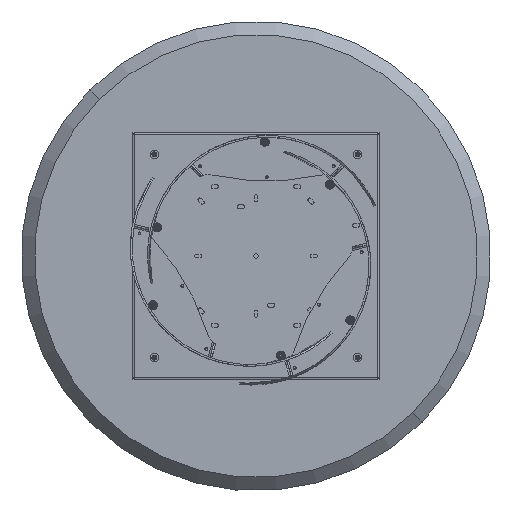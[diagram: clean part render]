
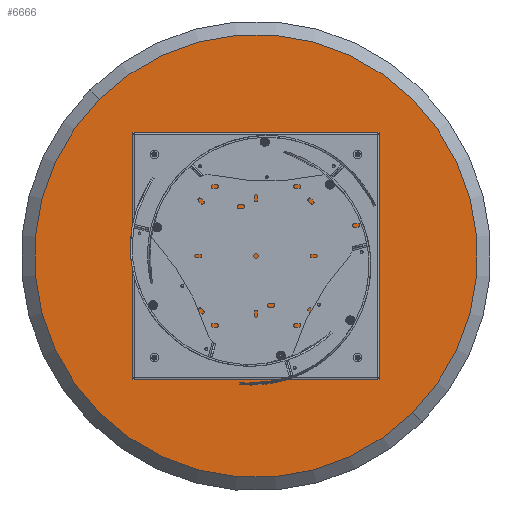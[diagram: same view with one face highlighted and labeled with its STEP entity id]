
A CAD part, front view. The second image highlights one B-rep face of the part: STEP entity #6666.
In plain terms, the highlighted planar face has unit normal (0, -1, 0).
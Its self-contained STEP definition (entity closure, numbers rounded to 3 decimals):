
#389 = AXIS2_PLACEMENT_3D ( 'NONE', #4727, #17463, #1574 ) ;
#555 = EDGE_LOOP ( 'NONE', ( #2842, #19616 ) ) ;
#726 = DIRECTION ( 'NONE',  ( 0., 0., -1. ) ) ;
#732 = DIRECTION ( 'NONE',  ( 0., 0., -1. ) ) ;
#737 = DIRECTION ( 'NONE',  ( 0., 0., -1. ) ) ;
#762 = CARTESIAN_POINT ( 'NONE',  ( 0., 0., -397.5 ) ) ;
#769 = EDGE_CURVE ( 'NONE', #1436, #10448, #15311, .T. ) ;
#771 = EDGE_CURVE ( 'NONE', #4511, #2243, #17977, .T. ) ;
#1298 = VERTEX_POINT ( 'NONE', #19451 ) ;
#1417 = CARTESIAN_POINT ( 'NONE',  ( 397.5, 0., -3.4 ) ) ;
#1436 = VERTEX_POINT ( 'NONE', #15176 ) ;
#1457 = EDGE_CURVE ( 'NONE', #10448, #1436, #2097, .T. ) ;
#1555 = VERTEX_POINT ( 'NONE', #8151 ) ;
#1574 = DIRECTION ( 'NONE',  ( 0., 0., -1. ) ) ;
#2053 = CIRCLE ( 'NONE', #389, 3.4 ) ;
#2097 = CIRCLE ( 'NONE', #8439, 613. ) ;
#2243 = VERTEX_POINT ( 'NONE', #19600 ) ;
#2321 = ORIENTED_EDGE ( 'NONE', *, *, #19620, .F. ) ;
#2424 = DIRECTION ( 'NONE',  ( 0., -1., 0. ) ) ;
#2650 = CARTESIAN_POINT ( 'NONE',  ( -397.5, 0., 0. ) ) ;
#2842 = ORIENTED_EDGE ( 'NONE', *, *, #10387, .F. ) ;
#3183 = EDGE_CURVE ( 'NONE', #8908, #1555, #2053, .T. ) ;
#3203 = EDGE_CURVE ( 'NONE', #12857, #1298, #7078, .T. ) ;
#3333 = CIRCLE ( 'NONE', #15024, 3.4 ) ;
#3779 = DIRECTION ( 'NONE',  ( 0., -1., 0. ) ) ;
#3812 = FACE_OUTER_BOUND ( 'NONE', #19307, .T. ) ;
#4284 = CARTESIAN_POINT ( 'NONE',  ( 0., 0., 613. ) ) ;
#4421 = CARTESIAN_POINT ( 'NONE',  ( 0., 0., 0. ) ) ;
#4511 = VERTEX_POINT ( 'NONE', #9405 ) ;
#4727 = CARTESIAN_POINT ( 'NONE',  ( 397.5, 0., 0. ) ) ;
#5226 = CARTESIAN_POINT ( 'NONE',  ( 0., 0., 397.5 ) ) ;
#5733 = EDGE_LOOP ( 'NONE', ( #15927, #14129 ) ) ;
#5980 = DIRECTION ( 'NONE',  ( 0., -1., 0. ) ) ;
#6311 = AXIS2_PLACEMENT_3D ( 'NONE', #10406, #19786, #16554 ) ;
#6658 = DIRECTION ( 'NONE',  ( 0., 0., -1. ) ) ;
#6666 = ADVANCED_FACE ( 'NONE', ( #3812, #19880, #13622, #10592, #10193 ), #18429, .T. ) ;
#6778 = ORIENTED_EDGE ( 'NONE', *, *, #13885, .F. ) ;
#7078 = CIRCLE ( 'NONE', #17409, 3.4 ) ;
#7103 = ORIENTED_EDGE ( 'NONE', *, *, #1457, .T. ) ;
#7137 = CARTESIAN_POINT ( 'NONE',  ( 0., 0., -400.9 ) ) ;
#7207 = DIRECTION ( 'NONE',  ( 0., -1., 0. ) ) ;
#7585 = CIRCLE ( 'NONE', #17263, 3.4 ) ;
#7639 = AXIS2_PLACEMENT_3D ( 'NONE', #19986, #16767, #11533 ) ;
#8151 = CARTESIAN_POINT ( 'NONE',  ( 397.5, 0., 3.4 ) ) ;
#8218 = DIRECTION ( 'NONE',  ( 0., -1., 0. ) ) ;
#8439 = AXIS2_PLACEMENT_3D ( 'NONE', #4421, #5980, #10476 ) ;
#8908 = VERTEX_POINT ( 'NONE', #1417 ) ;
#9046 = DIRECTION ( 'NONE',  ( 0., -1., 0. ) ) ;
#9191 = CARTESIAN_POINT ( 'NONE',  ( 0., 0., 400.9 ) ) ;
#9405 = CARTESIAN_POINT ( 'NONE',  ( -397.5, 0., -3.4 ) ) ;
#9849 = EDGE_LOOP ( 'NONE', ( #16640, #6778 ) ) ;
#10193 = FACE_BOUND ( 'NONE', #555, .T. ) ;
#10387 = EDGE_CURVE ( 'NONE', #1298, #12857, #7585, .T. ) ;
#10396 = CARTESIAN_POINT ( 'NONE',  ( 0., 0., 0. ) ) ;
#10406 = CARTESIAN_POINT ( 'NONE',  ( 0., 0., 0. ) ) ;
#10448 = VERTEX_POINT ( 'NONE', #4284 ) ;
#10476 = DIRECTION ( 'NONE',  ( 0., 0., -1. ) ) ;
#10592 = FACE_BOUND ( 'NONE', #5733, .T. ) ;
#10794 = ORIENTED_EDGE ( 'NONE', *, *, #769, .T. ) ;
#10977 = VERTEX_POINT ( 'NONE', #7137 ) ;
#11337 = AXIS2_PLACEMENT_3D ( 'NONE', #19189, #8218, #6658 ) ;
#11533 = DIRECTION ( 'NONE',  ( 0., 0., -1. ) ) ;
#11667 = CIRCLE ( 'NONE', #11337, 3.4 ) ;
#11945 = DIRECTION ( 'NONE',  ( 0., 0., -1. ) ) ;
#12078 = CIRCLE ( 'NONE', #15734, 3.4 ) ;
#12779 = CARTESIAN_POINT ( 'NONE',  ( 0., 0., -394.1 ) ) ;
#12857 = VERTEX_POINT ( 'NONE', #9191 ) ;
#13095 = EDGE_LOOP ( 'NONE', ( #19802, #2321 ) ) ;
#13426 = CIRCLE ( 'NONE', #14411, 3.4 ) ;
#13578 = CARTESIAN_POINT ( 'NONE',  ( 0., 0., 397.5 ) ) ;
#13622 = FACE_BOUND ( 'NONE', #9849, .T. ) ;
#13885 = EDGE_CURVE ( 'NONE', #2243, #4511, #3333, .T. ) ;
#14123 = DIRECTION ( 'NONE',  ( 0., 0., -1. ) ) ;
#14129 = ORIENTED_EDGE ( 'NONE', *, *, #19205, .F. ) ;
#14411 = AXIS2_PLACEMENT_3D ( 'NONE', #15038, #7207, #726 ) ;
#14758 = VERTEX_POINT ( 'NONE', #12779 ) ;
#14985 = DIRECTION ( 'NONE',  ( 0., 0., -1. ) ) ;
#15024 = AXIS2_PLACEMENT_3D ( 'NONE', #2650, #9046, #14985 ) ;
#15038 = CARTESIAN_POINT ( 'NONE',  ( 397.5, 0., 0. ) ) ;
#15044 = DIRECTION ( 'NONE',  ( 0., -1., 0. ) ) ;
#15140 = EDGE_CURVE ( 'NONE', #10977, #14758, #12078, .T. ) ;
#15176 = CARTESIAN_POINT ( 'NONE',  ( 0., 0., -613. ) ) ;
#15311 = CIRCLE ( 'NONE', #6311, 613. ) ;
#15734 = AXIS2_PLACEMENT_3D ( 'NONE', #762, #2424, #14123 ) ;
#15927 = ORIENTED_EDGE ( 'NONE', *, *, #3183, .F. ) ;
#16554 = DIRECTION ( 'NONE',  ( 0., 0., -1. ) ) ;
#16640 = ORIENTED_EDGE ( 'NONE', *, *, #771, .F. ) ;
#16767 = DIRECTION ( 'NONE',  ( 0., -1., 0. ) ) ;
#17263 = AXIS2_PLACEMENT_3D ( 'NONE', #13578, #15044, #732 ) ;
#17409 = AXIS2_PLACEMENT_3D ( 'NONE', #5226, #3779, #737 ) ;
#17463 = DIRECTION ( 'NONE',  ( 0., -1., 0. ) ) ;
#17977 = CIRCLE ( 'NONE', #7639, 3.4 ) ;
#17983 = AXIS2_PLACEMENT_3D ( 'NONE', #10396, #19976, #11945 ) ;
#18429 = PLANE ( 'NONE',  #17983 ) ;
#19189 = CARTESIAN_POINT ( 'NONE',  ( 0., 0., -397.5 ) ) ;
#19205 = EDGE_CURVE ( 'NONE', #1555, #8908, #13426, .T. ) ;
#19307 = EDGE_LOOP ( 'NONE', ( #7103, #10794 ) ) ;
#19451 = CARTESIAN_POINT ( 'NONE',  ( 0., 0., 394.1 ) ) ;
#19600 = CARTESIAN_POINT ( 'NONE',  ( -397.5, 0., 3.4 ) ) ;
#19616 = ORIENTED_EDGE ( 'NONE', *, *, #3203, .F. ) ;
#19620 = EDGE_CURVE ( 'NONE', #14758, #10977, #11667, .T. ) ;
#19786 = DIRECTION ( 'NONE',  ( 0., -1., 0. ) ) ;
#19802 = ORIENTED_EDGE ( 'NONE', *, *, #15140, .F. ) ;
#19880 = FACE_BOUND ( 'NONE', #13095, .T. ) ;
#19976 = DIRECTION ( 'NONE',  ( 0., -1., 0. ) ) ;
#19986 = CARTESIAN_POINT ( 'NONE',  ( -397.5, 0., 0. ) ) ;
